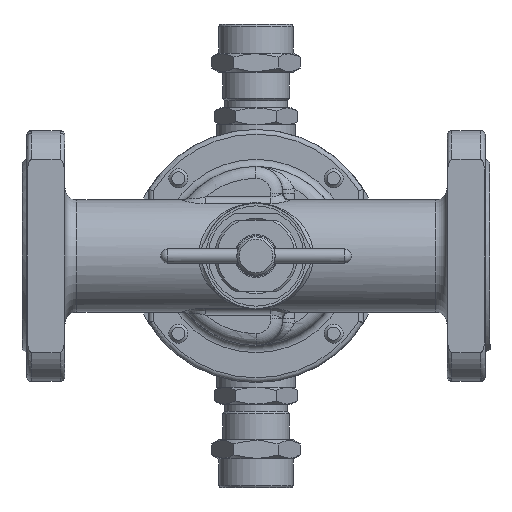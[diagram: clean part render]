
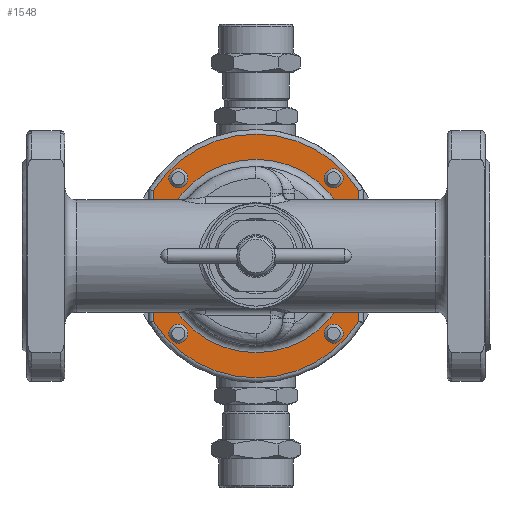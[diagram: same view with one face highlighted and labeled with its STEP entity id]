
A CAD part, front view. The second image highlights one B-rep face of the part: STEP entity #1548.
In plain terms, the highlighted planar face has unit normal (0, -1, 0).
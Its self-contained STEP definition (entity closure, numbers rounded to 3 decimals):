
#1548=ADVANCED_FACE('',(#16497,#16499,#16501,#16503,#16505,#16507),#16509,.F.);
#16497=FACE_BOUND('',#16498,.T.);
#16498=EDGE_LOOP('',(#29081));
#16499=FACE_BOUND('',#16500,.T.);
#16500=EDGE_LOOP('',(#29082));
#16501=FACE_BOUND('',#16502,.T.);
#16502=EDGE_LOOP('',(#29083));
#16503=FACE_BOUND('',#16504,.T.);
#16504=EDGE_LOOP('',(#29084));
#16505=FACE_BOUND('',#16506,.T.);
#16506=EDGE_LOOP('',(#29085));
#16507=FACE_OUTER_BOUND('',#16508,.T.);
#16508=EDGE_LOOP('',(#29086,#29087,#29088,#29089));
#16509=PLANE('',#16510);
#16510=AXIS2_PLACEMENT_3D('',#16511,#16512,#16513);
#16511=CARTESIAN_POINT('',(0.,30.,0.));
#16512=DIRECTION('',(0.,1.,0.));
#16513=DIRECTION('',(-1.,0.,0.));
#29081=ORIENTED_EDGE('',*,*,#36929,.F.);
#29082=ORIENTED_EDGE('',*,*,#36930,.F.);
#29083=ORIENTED_EDGE('',*,*,#36931,.F.);
#29084=ORIENTED_EDGE('',*,*,#36932,.F.);
#29085=ORIENTED_EDGE('',*,*,#36933,.F.);
#29086=ORIENTED_EDGE('',*,*,#36914,.F.);
#29087=ORIENTED_EDGE('',*,*,#36922,.F.);
#29088=ORIENTED_EDGE('',*,*,#36919,.F.);
#29089=ORIENTED_EDGE('',*,*,#36917,.F.);
#36914=EDGE_CURVE('',#44359,#44361,#44362,.T.);
#36917=EDGE_CURVE('',#44361,#44365,#44366,.T.);
#36919=EDGE_CURVE('',#44365,#44368,#44369,.T.);
#36922=EDGE_CURVE('',#44368,#44359,#44372,.T.);
#36929=EDGE_CURVE('',#44385,#44385,#44386,.T.);
#36930=EDGE_CURVE('',#44387,#44387,#44388,.T.);
#36931=EDGE_CURVE('',#44389,#44389,#44390,.T.);
#36932=EDGE_CURVE('',#44391,#44391,#44392,.T.);
#36933=EDGE_CURVE('',#44393,#44393,#44394,.T.);
#44359=VERTEX_POINT('',#66386);
#44361=VERTEX_POINT('',#66401);
#44362=CIRCLE('',#66402,51.);
#44365=VERTEX_POINT('',#66434);
#44366=LINE('',#66435,#66436);
#44368=VERTEX_POINT('',#66457);
#44369=CIRCLE('',#66458,51.);
#44372=LINE('',#66495,#66496);
#44385=VERTEX_POINT('',#66528);
#44386=CIRCLE('',#66529,4.);
#44387=VERTEX_POINT('',#66533);
#44388=CIRCLE('',#66534,40.5);
#44389=VERTEX_POINT('',#66538);
#44390=CIRCLE('',#66539,4.);
#44391=VERTEX_POINT('',#66543);
#44392=CIRCLE('',#66544,4.);
#44393=VERTEX_POINT('',#66548);
#44394=CIRCLE('',#66549,4.);
#66386=CARTESIAN_POINT('',(43.,30.,-27.423));
#66401=CARTESIAN_POINT('',(-43.,30.,-27.423));
#66402=AXIS2_PLACEMENT_3D('',#66403,#66404,#66405);
#66403=CARTESIAN_POINT('',(0.,30.,0.));
#66404=DIRECTION('',(0.,1.,0.));
#66405=DIRECTION('',(0.843,0.,-0.538));
#66434=CARTESIAN_POINT('',(-43.,30.,27.423));
#66435=CARTESIAN_POINT('',(-43.,30.,-27.423));
#66436=VECTOR('',#66437,1.);
#66437=DIRECTION('',(0.,0.,1.));
#66457=CARTESIAN_POINT('',(43.,30.,27.423));
#66458=AXIS2_PLACEMENT_3D('',#66459,#66460,#66461);
#66459=CARTESIAN_POINT('',(0.,30.,0.));
#66460=DIRECTION('',(0.,1.,0.));
#66461=DIRECTION('',(-0.843,0.,0.538));
#66495=CARTESIAN_POINT('',(43.,30.,27.423));
#66496=VECTOR('',#66497,1.);
#66497=DIRECTION('',(0.,0.,-1.));
#66528=CARTESIAN_POINT('',(-32.527,30.,-36.527));
#66529=AXIS2_PLACEMENT_3D('',#66530,#66531,#66532);
#66530=CARTESIAN_POINT('',(-32.527,30.,-32.527));
#66531=DIRECTION('',(0.,-1.,0.));
#66532=DIRECTION('',(0.,0.,-1.));
#66533=CARTESIAN_POINT('',(-40.5,30.,0.));
#66534=AXIS2_PLACEMENT_3D('',#66535,#66536,#66537);
#66535=CARTESIAN_POINT('',(0.,30.,0.));
#66536=DIRECTION('',(0.,-1.,0.));
#66537=DIRECTION('',(-1.,0.,0.));
#66538=CARTESIAN_POINT('',(32.527,30.,36.527));
#66539=AXIS2_PLACEMENT_3D('',#66540,#66541,#66542);
#66540=CARTESIAN_POINT('',(32.527,30.,32.527));
#66541=DIRECTION('',(0.,-1.,0.));
#66542=DIRECTION('',(0.,0.,1.));
#66543=CARTESIAN_POINT('',(36.527,30.,-32.527));
#66544=AXIS2_PLACEMENT_3D('',#66545,#66546,#66547);
#66545=CARTESIAN_POINT('',(32.527,30.,-32.527));
#66546=DIRECTION('',(0.,-1.,0.));
#66547=DIRECTION('',(1.,0.,0.));
#66548=CARTESIAN_POINT('',(-36.527,30.,32.527));
#66549=AXIS2_PLACEMENT_3D('',#66550,#66551,#66552);
#66550=CARTESIAN_POINT('',(-32.527,30.,32.527));
#66551=DIRECTION('',(0.,-1.,0.));
#66552=DIRECTION('',(-1.,0.,0.));
